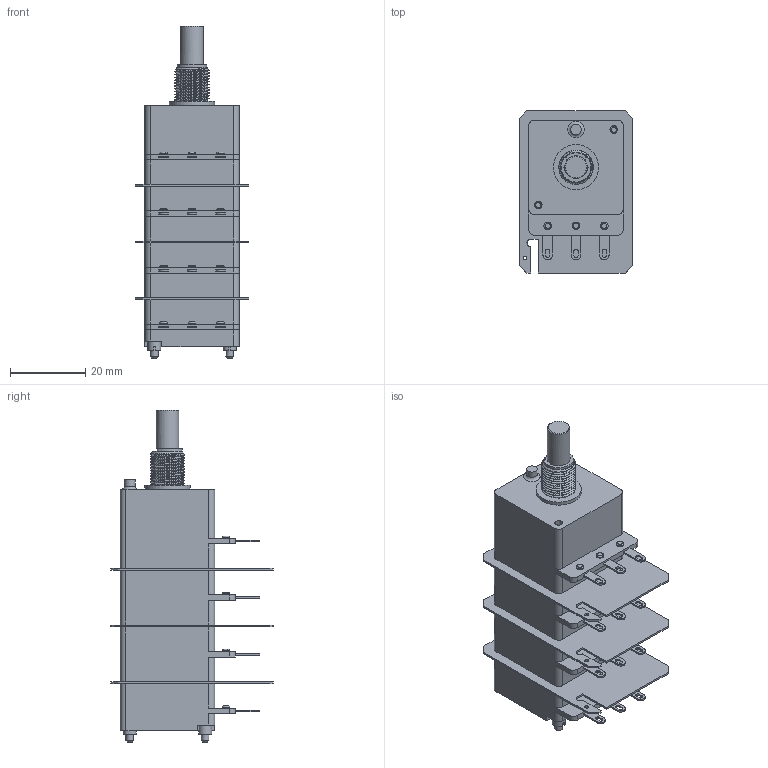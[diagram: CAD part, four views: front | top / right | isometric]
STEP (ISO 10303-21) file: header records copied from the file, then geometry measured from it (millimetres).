
FILE_DESCRIPTION(('FreeCAD Model'),'2;1');
FILE_NAME('Open CASCADE Shape Model','2026-07-14T15:49:47',(''),(''), 'Open CASCADE STEP processor 7.8','FreeCAD','Unknown');
FILE_SCHEMA(('AUTOMOTIVE_DESIGN { 1 0 10303 214 1 1 1 1 }'));
Length unit declared in the file: millimetre
Products named in the file (1): 4CP25XX-S-6R20
Bounding box: 30 x 43 x 88 mm (x, y, z)
Volume: 42183 mm3; surface area: 16153.5 mm2
Topology: 1 solids, 26 shells, 506 faces, 1155 edges, 760 vertices
Faces by surface type: plane 283, cylinder 165, bspline 38, torus 14, cone 6
Full cylindrical faces by diameter (mm): 1 x3, 1.9 x14, 2 x32, 2.2 x20, 2.8 x1, 3.5 x2, 4.5 x4, 5.4 x1, 6 x1, 6.05 x1, 8 x1, 9 x3, 12 x1
Entity records: 21692 total; most frequent: CARTESIAN_POINT 6750, DIRECTION 2415, ORIENTED_EDGE 2308, EDGE_CURVE 1154, AXIS2_PLACEMENT_3D 898, VERTEX_POINT 760, LINE 619, VECTOR 619
